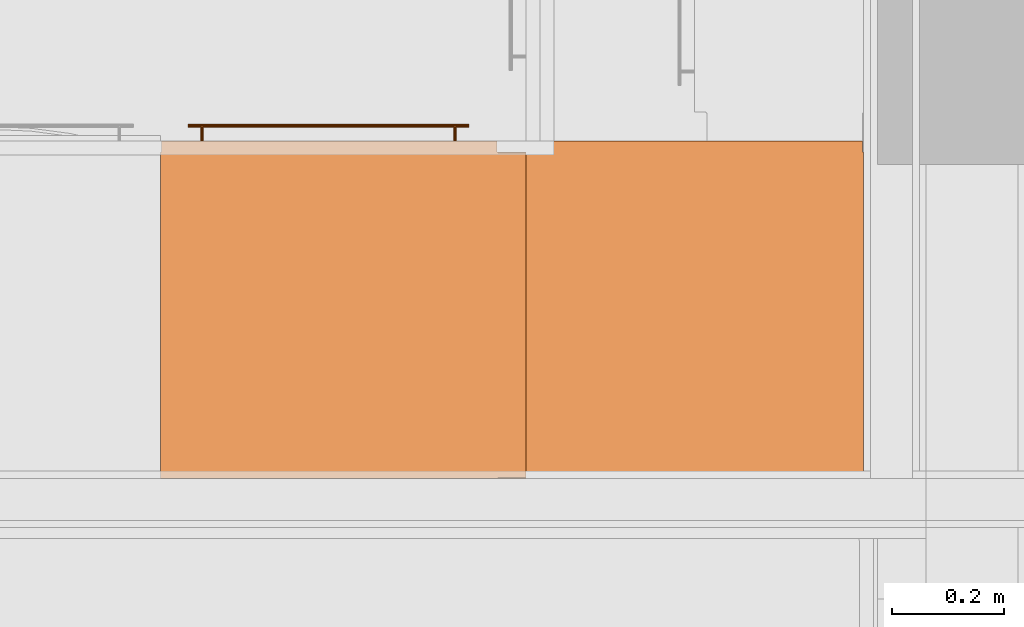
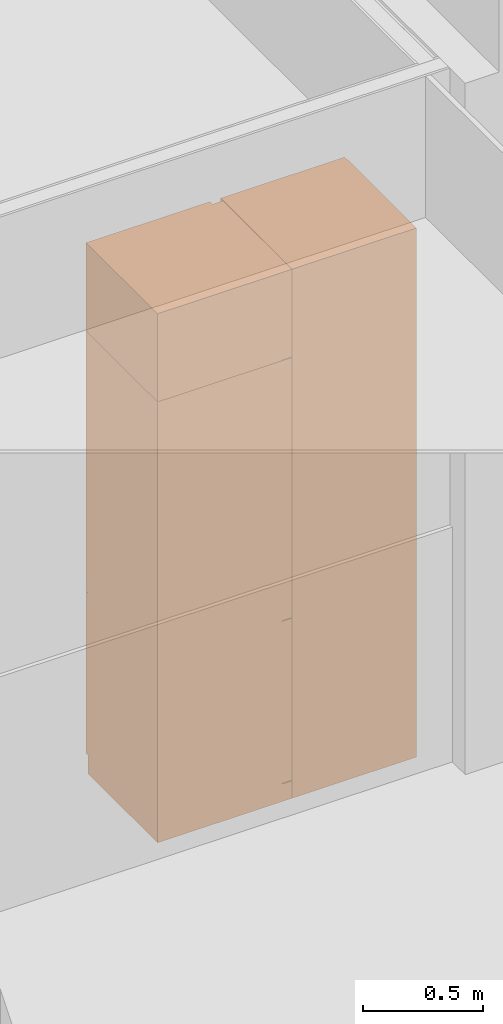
# One storey, part 139 of 167: 3 proxies.
"""IFC2X3 building model written with IfcOpenShell, lengths in millimetres."""

from ifc_helpers import new_model, entity, si_unit, converted_unit, derived_unit, money_unit, direction, frame, origin_with_axes, place, context, subcontext, project, spatial, open_shell, faceted_brep, surface_model, type_object, element, save


model = new_model("IFC2X3")

# Units and contexts
model_context = context("Model", 3, precision=0.01, world=origin_with_axes(), true_north=direction((0.0, 1.0)))
plan_context = context("Plan", 3, precision=0.01, world=origin_with_axes(), true_north=direction((0.0, 1.0)))
body_context = subcontext(model_context, "Body", "Model", "MODEL_VIEW")
ifc_project = project(units=[si_unit("LENGTHUNIT", "METRE", prefix="MILLI"), si_unit("AREAUNIT", "SQUARE_METRE"), si_unit("VOLUMEUNIT", "CUBIC_METRE"), converted_unit("PLANEANGLEUNIT", "DEGREE", entity("IfcPlaneAngleMeasure", 0.0174532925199), si_unit("PLANEANGLEUNIT", "RADIAN"), dimensions=[0, 0, 0, 0, 0, 0, 0]), si_unit("SOLIDANGLEUNIT", "STERADIAN"), money_unit("EUR"), converted_unit("TIMEUNIT", "Year", entity("IfcTimeMeasure", 31556926.0), si_unit("TIMEUNIT", "SECOND"), dimensions=[0, 0, 1, 0, 0, 0, 0]), si_unit("MASSUNIT", "GRAM", prefix="KILO"), si_unit("THERMODYNAMICTEMPERATUREUNIT", "DEGREE_CELSIUS"), si_unit("LUMINOUSINTENSITYUNIT", "LUMEN"), si_unit("ENERGYUNIT", "JOULE", prefix="MEGA"), derived_unit("THERMALCONDUCTANCEUNIT", [(si_unit("POWERUNIT", "WATT"), 1), (si_unit("LENGTHUNIT", "METRE"), -1), (si_unit("THERMODYNAMICTEMPERATUREUNIT", "KELVIN"), -1)]), derived_unit("SPECIFICHEATCAPACITYUNIT", [(si_unit("ENERGYUNIT", "JOULE"), 1), (si_unit("MASSUNIT", "GRAM", prefix="KILO"), -1), (si_unit("THERMODYNAMICTEMPERATUREUNIT", "KELVIN"), -1)]), derived_unit("MASSDENSITYUNIT", [(si_unit("MASSUNIT", "GRAM", prefix="KILO"), 1), (si_unit("VOLUMEUNIT", "CUBIC_METRE"), -1)])], contexts=[model_context, plan_context])

# Site, building, storey
site_placement = place(None, origin_with_axes())
site = spatial("IfcSite", under=ifc_project, at=site_placement, Name="Site", CompositionType="ELEMENT")
building_placement = place(site_placement, origin_with_axes())
building = spatial("IfcBuilding", under=site, at=building_placement, Name="Naam gebouw", CompositionType="ELEMENT")
storey_placement = place(building_placement, origin_with_axes())
storey = spatial("IfcBuildingStorey", under=building, at=storey_placement, Name="Begane grond", CompositionType="ELEMENT", Elevation=0.0)

# Proxies
building_element_proxy_type_1 = type_object("IfcBuildingElementProxyType", Name="Kast hoog 1D 24", PredefinedType="NOTDEFINED")
proxy_1_placement = place(storey_placement, frame((27225.0, 24566.7322881, 0.0), z_axis=(0.0, 0.0, 1.0), x_axis=(-1.0, 0.0, 0.0)))
element("IfcBuildingElementProxy", 1, at=proxy_1_placement, inside=storey, type_object=building_element_proxy_type_1, Name="__Object-x", context=body_context, shape_type="SurfaceModel", body=[
    faceted_brep([(-20.0, 20.0, 910.0), (-20.0, 20.0, 930.0), (-580.0, 20.0, 930.0), (-580.0, 20.0, 910.0), (-20.0, 580.0, 910.0), (-20.0, 580.0, 930.0), (-580.0, 580.0, 930.0), (-580.0, 580.0, 910.0)], [[[0, 1, 2, 3]], [[4, 5, 1, 0]], [[1, 5, 6, 2]], [[3, 2, 6, 7]], [[0, 3, 7, 4]], [[7, 6, 5, 4]]]),
    faceted_brep([(0.0, 20.0, 0.0), (0.0, 20.0, 90.0), (-650.0, 20.0, 90.0), (-650.0, 20.0, 0.0), (0.0, 600.0, 0.0), (0.0, 600.0, 90.0), (-650.0, 600.0, 90.0), (-650.0, 600.0, 0.0)], [[[0, 1, 2, 3]], [[4, 5, 1, 0]], [[1, 5, 6, 2]], [[3, 2, 6, 7]], [[0, 3, 7, 4]], [[7, 6, 5, 4]]]),
    faceted_brep([(0.0, 20.0, 2230.0), (0.0, 20.0, 2250.0), (-20.0, 20.0, 2250.0), (-20.0, 20.0, 2230.0), (0.0, 600.0, 2230.0), (0.0, 600.0, 2250.0), (-20.0, 600.0, 2250.0), (-580.0, 600.0, 2250.0), (-600.0, 600.0, 2250.0), (-600.0, 20.0, 2250.0), (-580.0, 20.0, 2250.0), (-580.0, 20.0, 2230.0), (-600.0, 20.0, 2230.0), (-600.0, 600.0, 2230.0), (-580.0, 600.0, 2230.0), (-20.0, 600.0, 2230.0)], [[[0, 1, 2, 3]], [[4, 5, 1, 0]], [[1, 5, 6, 7, 8, 9, 10, 2]], [[3, 2, 10, 11]], [[0, 3, 11, 12, 13, 14, 15, 4]], [[15, 6, 5, 4]], [[14, 7, 6, 15]], [[13, 8, 7, 14]], [[12, 9, 8, 13]], [[11, 10, 9, 12]]]),
    faceted_brep([(0.0, 20.0, 90.0), (0.0, 20.0, 110.0), (-20.0, 20.0, 110.0), (-20.0, 20.0, 90.0), (0.0, 600.0, 90.0), (0.0, 600.0, 110.0), (-20.0, 600.0, 110.0), (-580.0, 600.0, 110.0), (-600.0, 600.0, 110.0), (-600.0, 20.0, 110.0), (-580.0, 20.0, 110.0), (-580.0, 20.0, 90.0), (-600.0, 20.0, 90.0), (-600.0, 600.0, 90.0), (-580.0, 600.0, 90.0), (-20.0, 600.0, 90.0)], [[[0, 1, 2, 3]], [[4, 5, 1, 0]], [[1, 5, 6, 7, 8, 9, 10, 2]], [[3, 2, 10, 11]], [[0, 3, 11, 12, 13, 14, 15, 4]], [[15, 6, 5, 4]], [[14, 7, 6, 15]], [[13, 8, 7, 14]], [[12, 9, 8, 13]], [[11, 10, 9, 12]]]),
    faceted_brep([(0.0, 20.0, 110.0), (0.0, 20.0, 2230.0), (-20.0, 20.0, 2230.0), (-20.0, 20.0, 110.0), (0.0, 600.0, 110.0), (0.0, 600.0, 2230.0), (-600.0, 600.0, 2230.0), (-600.0, 20.0, 2230.0), (-580.0, 20.0, 2230.0), (-580.0, 580.0, 2230.0), (-20.0, 580.0, 2230.0), (-20.0, 580.0, 110.0), (-580.0, 580.0, 110.0), (-580.0, 20.0, 110.0), (-600.0, 20.0, 110.0), (-600.0, 600.0, 110.0)], [[[0, 1, 2, 3]], [[4, 5, 1, 0]], [[1, 5, 6, 7, 8, 9, 10, 2]], [[3, 2, 10, 11]], [[0, 3, 11, 12, 13, 14, 15, 4]], [[15, 6, 5, 4]], [[14, 7, 6, 15]], [[13, 8, 7, 14]], [[12, 9, 8, 13]], [[11, 10, 9, 12]]]),
    faceted_brep([(-580.0, 20.0, 353.333333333), (-580.0, 20.0, 373.333333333), (-580.0, 580.0, 373.333333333), (-580.0, 580.0, 353.333333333), (-20.0, 20.0, 353.333333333), (-20.0, 20.0, 373.333333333), (-20.0, 580.0, 373.333333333), (-20.0, 580.0, 353.333333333)], [[[0, 1, 2, 3]], [[4, 5, 1, 0]], [[1, 5, 6, 2]], [[3, 2, 6, 7]], [[0, 3, 7, 4]], [[7, 6, 5, 4]]]),
    faceted_brep([(-580.0, 20.0, 636.666666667), (-580.0, 20.0, 656.666666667), (-580.0, 580.0, 656.666666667), (-580.0, 580.0, 636.666666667), (-20.0, 20.0, 636.666666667), (-20.0, 20.0, 656.666666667), (-20.0, 580.0, 656.666666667), (-20.0, 580.0, 636.666666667)], [[[0, 1, 2, 3]], [[4, 5, 1, 0]], [[1, 5, 6, 2]], [[3, 2, 6, 7]], [[0, 3, 7, 4]], [[7, 6, 5, 4]]]),
    faceted_brep([(-1.5, 20.0, 91.5), (-1.5, 0.0, 91.5), (-598.5, 0.0, 91.5), (-598.5, 20.0, 91.5), (-1.5, 20.0, 918.5), (-1.5, 0.0, 918.5), (-598.5, 0.0, 918.5), (-598.5, 20.0, 918.5)], [[[0, 1, 2, 3]], [[4, 5, 1, 0]], [[1, 5, 6, 2]], [[3, 2, 6, 7]], [[0, 3, 7, 4]], [[7, 6, 5, 4]]]),
    faceted_brep([(-48.5, -28.1480502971, 838.728361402), (-48.5, -27.0, 838.5), (-48.5, -25.8519497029, 838.728361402), (-48.5, -24.8786796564, 839.378679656), (-48.5, -24.2283614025, 840.351949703), (-48.5, -24.0, 841.5), (-48.5, -24.2283614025, 842.648050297), (-48.5, -24.8786796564, 843.621320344), (-48.5, -25.8519497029, 844.271638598), (-48.5, -27.0, 844.5), (-48.5, -28.1480502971, 844.271638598), (-48.5, -29.1213203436, 843.621320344), (-48.5, -29.7716385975, 842.648050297), (-48.5, -30.0, 841.5), (-48.5, -29.7716385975, 840.351949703), (-48.5, -29.1213203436, 839.378679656), (-548.5, -28.1480502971, 838.728361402), (-548.5, -27.0, 838.5), (-548.5, -25.8519497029, 838.728361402), (-548.5, -24.8786796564, 839.378679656), (-548.5, -24.2283614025, 840.351949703), (-548.5, -24.0, 841.5), (-548.5, -24.2283614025, 842.648050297), (-548.5, -24.8786796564, 843.621320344), (-548.5, -25.8519497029, 844.271638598), (-548.5, -27.0, 844.5), (-548.5, -28.1480502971, 844.271638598), (-548.5, -29.1213203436, 843.621320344), (-548.5, -29.7716385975, 842.648050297), (-548.5, -30.0, 841.5), (-548.5, -29.7716385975, 840.351949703), (-548.5, -29.1213203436, 839.378679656)], [[[0, 1, 2, 3, 4, 5, 6, 7, 8, 9, 10, 11, 12, 13, 14, 15]], [[0, 16, 17, 1]], [[1, 17, 18, 2]], [[2, 18, 19, 3]], [[3, 19, 20, 4]], [[4, 20, 21, 5]], [[5, 21, 22, 6]], [[6, 22, 23, 7]], [[7, 23, 24, 8]], [[8, 24, 25, 9]], [[9, 25, 26, 10]], [[10, 26, 27, 11]], [[11, 27, 28, 12]], [[12, 28, 29, 13]], [[13, 29, 30, 14]], [[14, 30, 31, 15]], [[15, 31, 16, 0]], [[16, 31, 30, 29, 28, 27, 26, 25, 24, 23, 22, 21, 20, 19, 18, 17]]]),
    surface_model("IfcShellBasedSurfaceModel", [(-71.1903011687, -24.156637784, 840.543291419), (-71.1903011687, 0.0, 840.543291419), (-71.0, 0.0, 841.5), (-71.0, -24.0, 841.5), (-71.732233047, -24.5761600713, 839.732233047), (-71.732233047, 0.0, 839.732233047), (-72.5432914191, 0.0, 839.190301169), (-73.5, 0.0, 839.0), (-74.4567085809, 0.0, 839.190301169), (-75.267766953, 0.0, 839.732233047), (-75.8096988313, 0.0, 840.543291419), (-76.0, 0.0, 841.5), (-75.8096988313, 0.0, 842.456708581), (-75.267766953, 0.0, 843.267766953), (-74.4567085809, 0.0, 843.809698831), (-73.5, 0.0, 844.0), (-72.5432914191, 0.0, 843.809698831), (-71.732233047, 0.0, 843.267766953), (-71.1903011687, 0.0, 842.456708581), (-71.1903011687, -24.156637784, 842.456708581), (-72.5432914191, -25.0855049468, 839.190301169), (-73.5, -25.3416876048, 839.0), (-74.4567085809, -25.0855049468, 839.190301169), (-75.267766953, -24.5761600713, 839.732233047), (-75.8096988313, -24.156637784, 840.543291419), (-76.0, -24.0, 841.5), (-75.8096988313, -24.156637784, 842.456708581), (-75.267766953, -24.5761600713, 843.267766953), (-74.4567085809, -25.0855049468, 843.809698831), (-73.5, -25.3416876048, 844.0), (-72.5432914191, -25.0855049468, 843.809698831), (-71.732233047, -24.5761600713, 843.267766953)], [open_shell([[[0, 1, 2, 3]], [[4, 5, 1, 0]], [[1, 5, 6, 7, 8, 9, 10, 11, 12, 13, 14, 15, 16, 17, 18, 2]], [[3, 2, 18, 19]], [[20, 6, 5, 4]], [[21, 7, 6, 20]], [[22, 8, 7, 21]], [[23, 9, 8, 22]], [[24, 10, 9, 23]], [[25, 11, 10, 24]], [[26, 12, 11, 25]], [[27, 13, 12, 26]], [[28, 14, 13, 27]], [[29, 15, 14, 28]], [[30, 16, 15, 29]], [[31, 17, 16, 30]], [[19, 18, 17, 31]]])]),
    surface_model("IfcShellBasedSurfaceModel", [(-521.190301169, -24.156637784, 840.543291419), (-521.190301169, 0.0, 840.543291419), (-521.0, 0.0, 841.5), (-521.0, -24.0, 841.5), (-521.732233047, -24.5761600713, 839.732233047), (-521.732233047, 0.0, 839.732233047), (-522.543291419, 0.0, 839.190301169), (-523.5, 0.0, 839.0), (-524.456708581, 0.0, 839.190301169), (-525.267766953, 0.0, 839.732233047), (-525.809698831, 0.0, 840.543291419), (-526.0, 0.0, 841.5), (-525.809698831, 0.0, 842.456708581), (-525.267766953, 0.0, 843.267766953), (-524.456708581, 0.0, 843.809698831), (-523.5, 0.0, 844.0), (-522.543291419, 0.0, 843.809698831), (-521.732233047, 0.0, 843.267766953), (-521.190301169, 0.0, 842.456708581), (-521.190301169, -24.156637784, 842.456708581), (-522.543291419, -25.0855049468, 839.190301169), (-523.5, -25.3416876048, 839.0), (-524.456708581, -25.0855049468, 839.190301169), (-525.267766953, -24.5761600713, 839.732233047), (-525.809698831, -24.156637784, 840.543291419), (-526.0, -24.0, 841.5), (-525.809698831, -24.156637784, 842.456708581), (-525.267766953, -24.5761600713, 843.267766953), (-524.456708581, -25.0855049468, 843.809698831), (-523.5, -25.3416876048, 844.0), (-522.543291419, -25.0855049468, 843.809698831), (-521.732233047, -24.5761600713, 843.267766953)], [open_shell([[[0, 1, 2, 3]], [[4, 5, 1, 0]], [[1, 5, 6, 7, 8, 9, 10, 11, 12, 13, 14, 15, 16, 17, 18, 2]], [[3, 2, 18, 19]], [[20, 6, 5, 4]], [[21, 7, 6, 20]], [[22, 8, 7, 21]], [[23, 9, 8, 22]], [[24, 10, 9, 23]], [[25, 11, 10, 24]], [[26, 12, 11, 25]], [[27, 13, 12, 26]], [[28, 14, 13, 27]], [[29, 15, 14, 28]], [[30, 16, 15, 29]], [[31, 17, 16, 30]], [[19, 18, 17, 31]]])]),
    faceted_brep([(-1.5, 20.0, 921.5), (-1.5, 0.0, 921.5), (-598.5, 0.0, 921.5), (-598.5, 20.0, 921.5), (-1.5, 20.0, 2248.5), (-1.5, 0.0, 2248.5), (-598.5, 0.0, 2248.5), (-598.5, 20.0, 2248.5)], [[[0, 1, 2, 3]], [[4, 5, 1, 0]], [[1, 5, 6, 2]], [[3, 2, 6, 7]], [[0, 3, 7, 4]], [[7, 6, 5, 4]]]),
    faceted_brep([(-48.5, -28.1480502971, 968.728361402), (-48.5, -27.0, 968.5), (-48.5, -25.8519497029, 968.728361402), (-48.5, -24.8786796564, 969.378679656), (-48.5, -24.2283614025, 970.351949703), (-48.5, -24.0, 971.5), (-48.5, -24.2283614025, 972.648050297), (-48.5, -24.8786796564, 973.621320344), (-48.5, -25.8519497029, 974.271638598), (-48.5, -27.0, 974.5), (-48.5, -28.1480502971, 974.271638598), (-48.5, -29.1213203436, 973.621320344), (-48.5, -29.7716385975, 972.648050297), (-48.5, -30.0, 971.5), (-48.5, -29.7716385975, 970.351949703), (-48.5, -29.1213203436, 969.378679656), (-548.5, -28.1480502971, 968.728361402), (-548.5, -27.0, 968.5), (-548.5, -25.8519497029, 968.728361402), (-548.5, -24.8786796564, 969.378679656), (-548.5, -24.2283614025, 970.351949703), (-548.5, -24.0, 971.5), (-548.5, -24.2283614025, 972.648050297), (-548.5, -24.8786796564, 973.621320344), (-548.5, -25.8519497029, 974.271638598), (-548.5, -27.0, 974.5), (-548.5, -28.1480502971, 974.271638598), (-548.5, -29.1213203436, 973.621320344), (-548.5, -29.7716385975, 972.648050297), (-548.5, -30.0, 971.5), (-548.5, -29.7716385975, 970.351949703), (-548.5, -29.1213203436, 969.378679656)], [[[0, 1, 2, 3, 4, 5, 6, 7, 8, 9, 10, 11, 12, 13, 14, 15]], [[0, 16, 17, 1]], [[1, 17, 18, 2]], [[2, 18, 19, 3]], [[3, 19, 20, 4]], [[4, 20, 21, 5]], [[5, 21, 22, 6]], [[6, 22, 23, 7]], [[7, 23, 24, 8]], [[8, 24, 25, 9]], [[9, 25, 26, 10]], [[10, 26, 27, 11]], [[11, 27, 28, 12]], [[12, 28, 29, 13]], [[13, 29, 30, 14]], [[14, 30, 31, 15]], [[15, 31, 16, 0]], [[16, 31, 30, 29, 28, 27, 26, 25, 24, 23, 22, 21, 20, 19, 18, 17]]]),
    surface_model("IfcShellBasedSurfaceModel", [(-71.1903011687, -24.156637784, 970.543291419), (-71.1903011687, 0.0, 970.543291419), (-71.0, 0.0, 971.5), (-71.0, -24.0, 971.5), (-71.732233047, -24.5761600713, 969.732233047), (-71.732233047, 0.0, 969.732233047), (-72.5432914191, 0.0, 969.190301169), (-73.5, 0.0, 969.0), (-74.4567085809, 0.0, 969.190301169), (-75.267766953, 0.0, 969.732233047), (-75.8096988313, 0.0, 970.543291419), (-76.0, 0.0, 971.5), (-75.8096988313, 0.0, 972.456708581), (-75.267766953, 0.0, 973.267766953), (-74.4567085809, 0.0, 973.809698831), (-73.5, 0.0, 974.0), (-72.5432914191, 0.0, 973.809698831), (-71.732233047, 0.0, 973.267766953), (-71.1903011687, 0.0, 972.456708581), (-71.1903011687, -24.156637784, 972.456708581), (-72.5432914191, -25.0855049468, 969.190301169), (-73.5, -25.3416876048, 969.0), (-74.4567085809, -25.0855049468, 969.190301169), (-75.267766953, -24.5761600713, 969.732233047), (-75.8096988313, -24.156637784, 970.543291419), (-76.0, -24.0, 971.5), (-75.8096988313, -24.156637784, 972.456708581), (-75.267766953, -24.5761600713, 973.267766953), (-74.4567085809, -25.0855049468, 973.809698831), (-73.5, -25.3416876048, 974.0), (-72.5432914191, -25.0855049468, 973.809698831), (-71.732233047, -24.5761600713, 973.267766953)], [open_shell([[[0, 1, 2, 3]], [[4, 5, 1, 0]], [[1, 5, 6, 7, 8, 9, 10, 11, 12, 13, 14, 15, 16, 17, 18, 2]], [[3, 2, 18, 19]], [[20, 6, 5, 4]], [[21, 7, 6, 20]], [[22, 8, 7, 21]], [[23, 9, 8, 22]], [[24, 10, 9, 23]], [[25, 11, 10, 24]], [[26, 12, 11, 25]], [[27, 13, 12, 26]], [[28, 14, 13, 27]], [[29, 15, 14, 28]], [[30, 16, 15, 29]], [[31, 17, 16, 30]], [[19, 18, 17, 31]]])]),
    surface_model("IfcShellBasedSurfaceModel", [(-521.190301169, -24.156637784, 970.543291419), (-521.190301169, 0.0, 970.543291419), (-521.0, 0.0, 971.5), (-521.0, -24.0, 971.5), (-521.732233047, -24.5761600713, 969.732233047), (-521.732233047, 0.0, 969.732233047), (-522.543291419, 0.0, 969.190301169), (-523.5, 0.0, 969.0), (-524.456708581, 0.0, 969.190301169), (-525.267766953, 0.0, 969.732233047), (-525.809698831, 0.0, 970.543291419), (-526.0, 0.0, 971.5), (-525.809698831, 0.0, 972.456708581), (-525.267766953, 0.0, 973.267766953), (-524.456708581, 0.0, 973.809698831), (-523.5, 0.0, 974.0), (-522.543291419, 0.0, 973.809698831), (-521.732233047, 0.0, 973.267766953), (-521.190301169, 0.0, 972.456708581), (-521.190301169, -24.156637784, 972.456708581), (-522.543291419, -25.0855049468, 969.190301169), (-523.5, -25.3416876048, 969.0), (-524.456708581, -25.0855049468, 969.190301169), (-525.267766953, -24.5761600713, 969.732233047), (-525.809698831, -24.156637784, 970.543291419), (-526.0, -24.0, 971.5), (-525.809698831, -24.156637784, 972.456708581), (-525.267766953, -24.5761600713, 973.267766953), (-524.456708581, -25.0855049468, 973.809698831), (-523.5, -25.3416876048, 974.0), (-522.543291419, -25.0855049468, 973.809698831), (-521.732233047, -24.5761600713, 973.267766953)], [open_shell([[[0, 1, 2, 3]], [[4, 5, 1, 0]], [[1, 5, 6, 7, 8, 9, 10, 11, 12, 13, 14, 15, 16, 17, 18, 2]], [[3, 2, 18, 19]], [[20, 6, 5, 4]], [[21, 7, 6, 20]], [[22, 8, 7, 21]], [[23, 9, 8, 22]], [[24, 10, 9, 23]], [[25, 11, 10, 24]], [[26, 12, 11, 25]], [[27, 13, 12, 26]], [[28, 14, 13, 27]], [[29, 15, 14, 28]], [[30, 16, 15, 29]], [[31, 17, 16, 30]], [[19, 18, 17, 31]]])]),
    faceted_brep([(-600.0, 21.5, 91.5), (-650.0, 21.5, 91.5), (-650.0, 598.5, 91.5), (-600.0, 598.5, 91.5), (-600.0, 21.5, 918.5), (-650.0, 21.5, 918.5), (-650.0, 598.5, 918.5), (-600.0, 598.5, 918.5)], [[[0, 1, 2, 3]], [[4, 5, 1, 0]], [[1, 5, 6, 2]], [[3, 2, 6, 7]], [[0, 3, 7, 4]], [[7, 6, 5, 4]]]),
    faceted_brep([(-600.0, 21.5, 921.5), (-650.0, 21.5, 921.5), (-650.0, 598.5, 921.5), (-600.0, 598.5, 921.5), (-600.0, 21.5, 2248.5), (-650.0, 21.5, 2248.5), (-650.0, 598.5, 2248.5), (-600.0, 598.5, 2248.5)], [[[0, 1, 2, 3]], [[4, 5, 1, 0]], [[1, 5, 6, 2]], [[3, 2, 6, 7]], [[0, 3, 7, 4]], [[7, 6, 5, 4]]]),
])
proxy_2_placement = place(storey_placement, frame((27875.0, 24566.7322881, 0.0), z_axis=(0.0, 0.0, 1.0), x_axis=(-1.0, 0.0, 0.0)))
element("IfcBuildingElementProxy", 2, at=proxy_2_placement, inside=storey, type_object=building_element_proxy_type_1, Name="__Object-x", context=body_context, shape_type="Brep", body=[
    faceted_brep([(-20.0, 20.0, 910.0), (-20.0, 20.0, 930.0), (-580.0, 20.0, 930.0), (-580.0, 20.0, 910.0), (-20.0, 580.0, 910.0), (-20.0, 580.0, 930.0), (-580.0, 580.0, 930.0), (-580.0, 580.0, 910.0)], [[[0, 1, 2, 3]], [[4, 5, 1, 0]], [[1, 5, 6, 2]], [[3, 2, 6, 7]], [[0, 3, 7, 4]], [[7, 6, 5, 4]]]),
    faceted_brep([(0.0, 20.0, 0.0), (0.0, 20.0, 90.0), (-600.0, 20.0, 90.0), (-600.0, 20.0, 0.0), (0.0, 600.0, 0.0), (0.0, 600.0, 90.0), (-600.0, 600.0, 90.0), (-600.0, 600.0, 0.0)], [[[0, 1, 2, 3]], [[4, 5, 1, 0]], [[1, 5, 6, 2]], [[3, 2, 6, 7]], [[0, 3, 7, 4]], [[7, 6, 5, 4]]]),
    faceted_brep([(0.0, 20.0, 2680.0), (0.0, 20.0, 2700.0), (-20.0, 20.0, 2700.0), (-20.0, 20.0, 2680.0), (0.0, 600.0, 2680.0), (0.0, 600.0, 2700.0), (-20.0, 600.0, 2700.0), (-580.0, 600.0, 2700.0), (-600.0, 600.0, 2700.0), (-600.0, 20.0, 2700.0), (-580.0, 20.0, 2700.0), (-580.0, 20.0, 2680.0), (-600.0, 20.0, 2680.0), (-600.0, 600.0, 2680.0), (-580.0, 600.0, 2680.0), (-20.0, 600.0, 2680.0)], [[[0, 1, 2, 3]], [[4, 5, 1, 0]], [[1, 5, 6, 7, 8, 9, 10, 2]], [[3, 2, 10, 11]], [[0, 3, 11, 12, 13, 14, 15, 4]], [[15, 6, 5, 4]], [[14, 7, 6, 15]], [[13, 8, 7, 14]], [[12, 9, 8, 13]], [[11, 10, 9, 12]]]),
    faceted_brep([(0.0, 20.0, 90.0), (0.0, 20.0, 110.0), (-20.0, 20.0, 110.0), (-20.0, 20.0, 90.0), (0.0, 600.0, 90.0), (0.0, 600.0, 110.0), (-20.0, 600.0, 110.0), (-580.0, 600.0, 110.0), (-600.0, 600.0, 110.0), (-600.0, 20.0, 110.0), (-580.0, 20.0, 110.0), (-580.0, 20.0, 90.0), (-600.0, 20.0, 90.0), (-600.0, 600.0, 90.0), (-580.0, 600.0, 90.0), (-20.0, 600.0, 90.0)], [[[0, 1, 2, 3]], [[4, 5, 1, 0]], [[1, 5, 6, 7, 8, 9, 10, 2]], [[3, 2, 10, 11]], [[0, 3, 11, 12, 13, 14, 15, 4]], [[15, 6, 5, 4]], [[14, 7, 6, 15]], [[13, 8, 7, 14]], [[12, 9, 8, 13]], [[11, 10, 9, 12]]]),
    faceted_brep([(0.0, 20.0, 110.0), (0.0, 20.0, 2680.0), (-20.0, 20.0, 2680.0), (-20.0, 20.0, 110.0), (0.0, 600.0, 110.0), (0.0, 600.0, 2680.0), (-600.0, 600.0, 2680.0), (-600.0, 20.0, 2680.0), (-580.0, 20.0, 2680.0), (-580.0, 580.0, 2680.0), (-20.0, 580.0, 2680.0), (-20.0, 580.0, 110.0), (-580.0, 580.0, 110.0), (-580.0, 20.0, 110.0), (-600.0, 20.0, 110.0), (-600.0, 600.0, 110.0)], [[[0, 1, 2, 3]], [[4, 5, 1, 0]], [[1, 5, 6, 7, 8, 9, 10, 2]], [[3, 2, 10, 11]], [[0, 3, 11, 12, 13, 14, 15, 4]], [[15, 6, 5, 4]], [[14, 7, 6, 15]], [[13, 8, 7, 14]], [[12, 9, 8, 13]], [[11, 10, 9, 12]]]),
    faceted_brep([(-580.0, 20.0, 353.333333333), (-580.0, 20.0, 373.333333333), (-580.0, 580.0, 373.333333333), (-580.0, 580.0, 353.333333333), (-20.0, 20.0, 353.333333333), (-20.0, 20.0, 373.333333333), (-20.0, 580.0, 373.333333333), (-20.0, 580.0, 353.333333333)], [[[0, 1, 2, 3]], [[4, 5, 1, 0]], [[1, 5, 6, 2]], [[3, 2, 6, 7]], [[0, 3, 7, 4]], [[7, 6, 5, 4]]]),
    faceted_brep([(-580.0, 20.0, 636.666666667), (-580.0, 20.0, 656.666666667), (-580.0, 580.0, 656.666666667), (-580.0, 580.0, 636.666666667), (-20.0, 20.0, 636.666666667), (-20.0, 20.0, 656.666666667), (-20.0, 580.0, 656.666666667), (-20.0, 580.0, 636.666666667)], [[[0, 1, 2, 3]], [[4, 5, 1, 0]], [[1, 5, 6, 2]], [[3, 2, 6, 7]], [[0, 3, 7, 4]], [[7, 6, 5, 4]]]),
    faceted_brep([(-1.5, 20.0, 91.5), (-1.5, 0.0, 91.5), (-598.5, 0.0, 91.5), (-598.5, 20.0, 91.5), (-1.5, 20.0, 918.5), (-1.5, 0.0, 918.5), (-598.5, 0.0, 918.5), (-598.5, 20.0, 918.5)], [[[0, 1, 2, 3]], [[4, 5, 1, 0]], [[1, 5, 6, 2]], [[3, 2, 6, 7]], [[0, 3, 7, 4]], [[7, 6, 5, 4]]]),
    faceted_brep([(-1.5, 20.0, 921.5), (-1.5, 0.0, 921.5), (-598.5, 0.0, 921.5), (-598.5, 20.0, 921.5), (-1.5, 20.0, 2698.5), (-1.5, 0.0, 2698.5), (-598.5, 0.0, 2698.5), (-598.5, 20.0, 2698.5)], [[[0, 1, 2, 3]], [[4, 5, 1, 0]], [[1, 5, 6, 2]], [[3, 2, 6, 7]], [[0, 3, 7, 4]], [[7, 6, 5, 4]]]),
])
building_element_proxy_type_2 = type_object("IfcBuildingElementProxyType", Name="Kast wand 1D 24", PredefinedType="NOTDEFINED")
proxy_3_placement = place(storey_placement, frame((27225.0, 24566.7322881, 750.0), z_axis=(0.0, 0.0, 1.0), x_axis=(-1.0, 0.0, 0.0)))
element("IfcBuildingElementProxy", 3, at=proxy_3_placement, inside=storey, type_object=building_element_proxy_type_2, Name="__Object-x", context=body_context, shape_type="SurfaceModel", body=[
    faceted_brep([(0.0, 20.0, 1930.0), (0.0, 20.0, 1950.0), (-20.0, 20.0, 1950.0), (-20.0, 20.0, 1930.0), (0.0, 600.0, 1930.0), (0.0, 600.0, 1950.0), (-20.0, 600.0, 1950.0), (-580.0, 600.0, 1950.0), (-600.0, 600.0, 1950.0), (-600.0, 20.0, 1950.0), (-580.0, 20.0, 1950.0), (-580.0, 20.0, 1930.0), (-600.0, 20.0, 1930.0), (-600.0, 600.0, 1930.0), (-580.0, 600.0, 1930.0), (-20.0, 600.0, 1930.0)], [[[0, 1, 2, 3]], [[4, 5, 1, 0]], [[1, 5, 6, 7, 8, 9, 10, 2]], [[3, 2, 10, 11]], [[0, 3, 11, 12, 13, 14, 15, 4]], [[15, 6, 5, 4]], [[14, 7, 6, 15]], [[13, 8, 7, 14]], [[12, 9, 8, 13]], [[11, 10, 9, 12]]]),
    faceted_brep([(0.0, 20.0, 1500.0), (0.0, 20.0, 1520.0), (-20.0, 20.0, 1520.0), (-20.0, 20.0, 1500.0), (0.0, 600.0, 1500.0), (0.0, 600.0, 1520.0), (-20.0, 600.0, 1520.0), (-580.0, 600.0, 1520.0), (-600.0, 600.0, 1520.0), (-600.0, 20.0, 1520.0), (-580.0, 20.0, 1520.0), (-580.0, 20.0, 1500.0), (-600.0, 20.0, 1500.0), (-600.0, 600.0, 1500.0), (-580.0, 600.0, 1500.0), (-20.0, 600.0, 1500.0)], [[[0, 1, 2, 3]], [[4, 5, 1, 0]], [[1, 5, 6, 7, 8, 9, 10, 2]], [[3, 2, 10, 11]], [[0, 3, 11, 12, 13, 14, 15, 4]], [[15, 6, 5, 4]], [[14, 7, 6, 15]], [[13, 8, 7, 14]], [[12, 9, 8, 13]], [[11, 10, 9, 12]]]),
    faceted_brep([(0.0, 20.0, 1520.0), (0.0, 20.0, 1930.0), (-20.0, 20.0, 1930.0), (-20.0, 20.0, 1520.0), (0.0, 600.0, 1520.0), (0.0, 600.0, 1930.0), (-600.0, 600.0, 1930.0), (-600.0, 20.0, 1930.0), (-580.0, 20.0, 1930.0), (-580.0, 580.0, 1930.0), (-20.0, 580.0, 1930.0), (-20.0, 580.0, 1520.0), (-580.0, 580.0, 1520.0), (-580.0, 20.0, 1520.0), (-600.0, 20.0, 1520.0), (-600.0, 600.0, 1520.0)], [[[0, 1, 2, 3]], [[4, 5, 1, 0]], [[1, 5, 6, 7, 8, 9, 10, 2]], [[3, 2, 10, 11]], [[0, 3, 11, 12, 13, 14, 15, 4]], [[15, 6, 5, 4]], [[14, 7, 6, 15]], [[13, 8, 7, 14]], [[12, 9, 8, 13]], [[11, 10, 9, 12]]]),
    faceted_brep([(-580.0, 20.0, 1630.0), (-580.0, 20.0, 1650.0), (-580.0, 580.0, 1650.0), (-580.0, 580.0, 1630.0), (-20.0, 20.0, 1630.0), (-20.0, 20.0, 1650.0), (-20.0, 580.0, 1650.0), (-20.0, 580.0, 1630.0)], [[[0, 1, 2, 3]], [[4, 5, 1, 0]], [[1, 5, 6, 2]], [[3, 2, 6, 7]], [[0, 3, 7, 4]], [[7, 6, 5, 4]]]),
    faceted_brep([(-580.0, 20.0, 1780.0), (-580.0, 20.0, 1800.0), (-580.0, 580.0, 1800.0), (-580.0, 580.0, 1780.0), (-20.0, 20.0, 1780.0), (-20.0, 20.0, 1800.0), (-20.0, 580.0, 1800.0), (-20.0, 580.0, 1780.0)], [[[0, 1, 2, 3]], [[4, 5, 1, 0]], [[1, 5, 6, 2]], [[3, 2, 6, 7]], [[0, 3, 7, 4]], [[7, 6, 5, 4]]]),
    faceted_brep([(-1.5, 20.0, 1501.5), (-1.5, 0.0, 1501.5), (-598.5, 0.0, 1501.5), (-598.5, 20.0, 1501.5), (-1.5, 20.0, 1948.5), (-1.5, 0.0, 1948.5), (-598.5, 0.0, 1948.5), (-598.5, 20.0, 1948.5)], [[[0, 1, 2, 3]], [[4, 5, 1, 0]], [[1, 5, 6, 2]], [[3, 2, 6, 7]], [[0, 3, 7, 4]], [[7, 6, 5, 4]]]),
    faceted_brep([(-48.5, -28.1480502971, 1548.7283614), (-48.5, -27.0, 1548.5), (-48.5, -25.8519497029, 1548.7283614), (-48.5, -24.8786796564, 1549.37867966), (-48.5, -24.2283614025, 1550.3519497), (-48.5, -24.0, 1551.5), (-48.5, -24.2283614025, 1552.6480503), (-48.5, -24.8786796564, 1553.62132034), (-48.5, -25.8519497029, 1554.2716386), (-48.5, -27.0, 1554.5), (-48.5, -28.1480502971, 1554.2716386), (-48.5, -29.1213203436, 1553.62132034), (-48.5, -29.7716385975, 1552.6480503), (-48.5, -30.0, 1551.5), (-48.5, -29.7716385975, 1550.3519497), (-48.5, -29.1213203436, 1549.37867966), (-548.5, -28.1480502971, 1548.7283614), (-548.5, -27.0, 1548.5), (-548.5, -25.8519497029, 1548.7283614), (-548.5, -24.8786796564, 1549.37867966), (-548.5, -24.2283614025, 1550.3519497), (-548.5, -24.0, 1551.5), (-548.5, -24.2283614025, 1552.6480503), (-548.5, -24.8786796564, 1553.62132034), (-548.5, -25.8519497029, 1554.2716386), (-548.5, -27.0, 1554.5), (-548.5, -28.1480502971, 1554.2716386), (-548.5, -29.1213203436, 1553.62132034), (-548.5, -29.7716385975, 1552.6480503), (-548.5, -30.0, 1551.5), (-548.5, -29.7716385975, 1550.3519497), (-548.5, -29.1213203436, 1549.37867966)], [[[0, 1, 2, 3, 4, 5, 6, 7, 8, 9, 10, 11, 12, 13, 14, 15]], [[0, 16, 17, 1]], [[1, 17, 18, 2]], [[2, 18, 19, 3]], [[3, 19, 20, 4]], [[4, 20, 21, 5]], [[5, 21, 22, 6]], [[6, 22, 23, 7]], [[7, 23, 24, 8]], [[8, 24, 25, 9]], [[9, 25, 26, 10]], [[10, 26, 27, 11]], [[11, 27, 28, 12]], [[12, 28, 29, 13]], [[13, 29, 30, 14]], [[14, 30, 31, 15]], [[15, 31, 16, 0]], [[16, 31, 30, 29, 28, 27, 26, 25, 24, 23, 22, 21, 20, 19, 18, 17]]]),
    surface_model("IfcShellBasedSurfaceModel", [(-71.1903011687, -24.156637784, 1550.54329142), (-71.1903011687, 0.0, 1550.54329142), (-71.0, 0.0, 1551.5), (-71.0, -24.0, 1551.5), (-71.732233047, -24.5761600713, 1549.73223305), (-71.732233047, 0.0, 1549.73223305), (-72.5432914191, 0.0, 1549.19030117), (-73.5, 0.0, 1549.0), (-74.4567085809, 0.0, 1549.19030117), (-75.267766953, 0.0, 1549.73223305), (-75.8096988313, 0.0, 1550.54329142), (-76.0, 0.0, 1551.5), (-75.8096988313, 0.0, 1552.45670858), (-75.267766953, 0.0, 1553.26776695), (-74.4567085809, 0.0, 1553.80969883), (-73.5, 0.0, 1554.0), (-72.5432914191, 0.0, 1553.80969883), (-71.732233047, 0.0, 1553.26776695), (-71.1903011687, 0.0, 1552.45670858), (-71.1903011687, -24.156637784, 1552.45670858), (-72.5432914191, -25.0855049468, 1549.19030117), (-73.5, -25.3416876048, 1549.0), (-74.4567085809, -25.0855049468, 1549.19030117), (-75.267766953, -24.5761600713, 1549.73223305), (-75.8096988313, -24.156637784, 1550.54329142), (-76.0, -24.0, 1551.5), (-75.8096988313, -24.156637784, 1552.45670858), (-75.267766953, -24.5761600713, 1553.26776695), (-74.4567085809, -25.0855049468, 1553.80969883), (-73.5, -25.3416876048, 1554.0), (-72.5432914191, -25.0855049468, 1553.80969883), (-71.732233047, -24.5761600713, 1553.26776695)], [open_shell([[[0, 1, 2, 3]], [[4, 5, 1, 0]], [[1, 5, 6, 7, 8, 9, 10, 11, 12, 13, 14, 15, 16, 17, 18, 2]], [[3, 2, 18, 19]], [[20, 6, 5, 4]], [[21, 7, 6, 20]], [[22, 8, 7, 21]], [[23, 9, 8, 22]], [[24, 10, 9, 23]], [[25, 11, 10, 24]], [[26, 12, 11, 25]], [[27, 13, 12, 26]], [[28, 14, 13, 27]], [[29, 15, 14, 28]], [[30, 16, 15, 29]], [[31, 17, 16, 30]], [[19, 18, 17, 31]]])]),
    surface_model("IfcShellBasedSurfaceModel", [(-521.190301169, -24.156637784, 1550.54329142), (-521.190301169, 0.0, 1550.54329142), (-521.0, 0.0, 1551.5), (-521.0, -24.0, 1551.5), (-521.732233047, -24.5761600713, 1549.73223305), (-521.732233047, 0.0, 1549.73223305), (-522.543291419, 0.0, 1549.19030117), (-523.5, 0.0, 1549.0), (-524.456708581, 0.0, 1549.19030117), (-525.267766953, 0.0, 1549.73223305), (-525.809698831, 0.0, 1550.54329142), (-526.0, 0.0, 1551.5), (-525.809698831, 0.0, 1552.45670858), (-525.267766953, 0.0, 1553.26776695), (-524.456708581, 0.0, 1553.80969883), (-523.5, 0.0, 1554.0), (-522.543291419, 0.0, 1553.80969883), (-521.732233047, 0.0, 1553.26776695), (-521.190301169, 0.0, 1552.45670858), (-521.190301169, -24.156637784, 1552.45670858), (-522.543291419, -25.0855049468, 1549.19030117), (-523.5, -25.3416876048, 1549.0), (-524.456708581, -25.0855049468, 1549.19030117), (-525.267766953, -24.5761600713, 1549.73223305), (-525.809698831, -24.156637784, 1550.54329142), (-526.0, -24.0, 1551.5), (-525.809698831, -24.156637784, 1552.45670858), (-525.267766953, -24.5761600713, 1553.26776695), (-524.456708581, -25.0855049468, 1553.80969883), (-523.5, -25.3416876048, 1554.0), (-522.543291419, -25.0855049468, 1553.80969883), (-521.732233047, -24.5761600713, 1553.26776695)], [open_shell([[[0, 1, 2, 3]], [[4, 5, 1, 0]], [[1, 5, 6, 7, 8, 9, 10, 11, 12, 13, 14, 15, 16, 17, 18, 2]], [[3, 2, 18, 19]], [[20, 6, 5, 4]], [[21, 7, 6, 20]], [[22, 8, 7, 21]], [[23, 9, 8, 22]], [[24, 10, 9, 23]], [[25, 11, 10, 24]], [[26, 12, 11, 25]], [[27, 13, 12, 26]], [[28, 14, 13, 27]], [[29, 15, 14, 28]], [[30, 16, 15, 29]], [[31, 17, 16, 30]], [[19, 18, 17, 31]]])]),
    faceted_brep([(-600.0, 21.5, 1501.5), (-650.0, 21.5, 1501.5), (-650.0, 598.5, 1501.5), (-600.0, 598.5, 1501.5), (-600.0, 21.5, 1948.5), (-650.0, 21.5, 1948.5), (-650.0, 598.5, 1948.5), (-600.0, 598.5, 1948.5)], [[[0, 1, 2, 3]], [[4, 5, 1, 0]], [[1, 5, 6, 2]], [[3, 2, 6, 7]], [[0, 3, 7, 4]], [[7, 6, 5, 4]]]),
])

save(model, "model.ifc")
